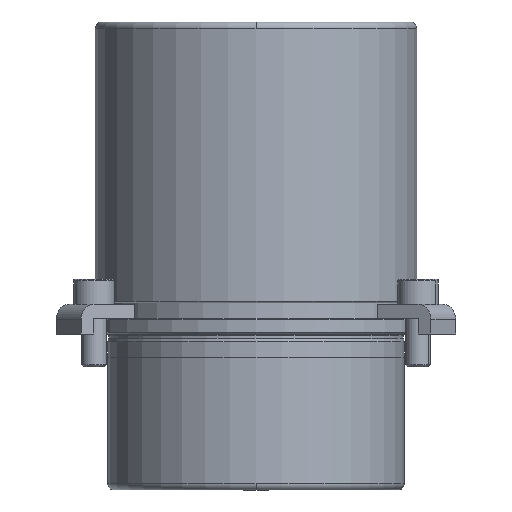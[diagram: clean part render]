
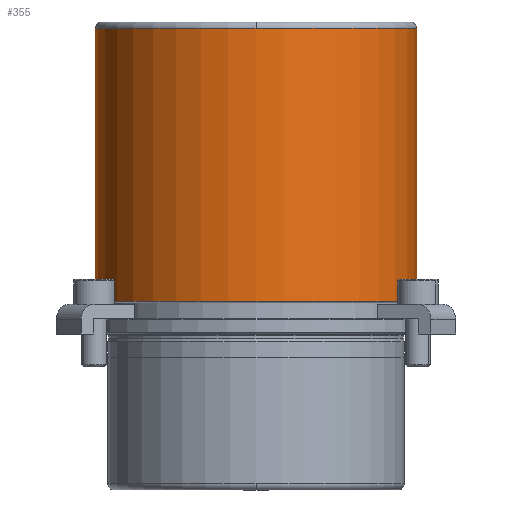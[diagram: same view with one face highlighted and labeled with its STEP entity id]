
A CAD part, front view. The second image highlights one B-rep face of the part: STEP entity #355.
In plain terms, the highlighted cylindrical face has radius 51.5 mm (diameter 103 mm), a partial arc.
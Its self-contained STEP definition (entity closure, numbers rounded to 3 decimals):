
#269=CARTESIAN_POINT('',(0.0,-51.5,98.));
#270=VERTEX_POINT('',#269);
#296=CARTESIAN_POINT('',(-51.5,0.,98.));
#297=VERTEX_POINT('',#296);
#305=CARTESIAN_POINT('',(0.0,0.,98.));
#306=DIRECTION('',(0.0,0.0,1.0));
#307=DIRECTION('',(1.0,0.0,0.0));
#308=AXIS2_PLACEMENT_3D('',#305,#306,#307);
#309=CIRCLE('',#308,51.5);
#310=EDGE_CURVE('',#297,#270,#309,.T.);
#315=CARTESIAN_POINT('',(0.0,0.,54.25));
#316=DIRECTION('',(0.0,0.,1.0));
#317=DIRECTION('',(1.0,0.0,0.0));
#318=AXIS2_PLACEMENT_3D('',#315,#316,#317);
#319=CYLINDRICAL_SURFACE('',#318,51.5);
#320=CARTESIAN_POINT('',(51.5,0.,98.));
#321=VERTEX_POINT('',#320);
#322=CARTESIAN_POINT('',(51.5,0.,10.5));
#323=VERTEX_POINT('',#322);
#324=CARTESIAN_POINT('',(51.5,0.,98.));
#325=DIRECTION('',(0.0,0.0,-1.0));
#326=VECTOR('',#325,87.5);
#327=LINE('',#324,#326);
#328=EDGE_CURVE('',#321,#323,#327,.T.);
#329=ORIENTED_EDGE('',*,*,#328,.F.);
#330=CARTESIAN_POINT('',(0.0,0.,98.));
#331=DIRECTION('',(0.0,0.0,1.0));
#332=DIRECTION('',(1.0,0.0,0.0));
#333=AXIS2_PLACEMENT_3D('',#330,#331,#332);
#334=CIRCLE('',#333,51.5);
#335=EDGE_CURVE('',#270,#321,#334,.T.);
#336=ORIENTED_EDGE('',*,*,#335,.F.);
#337=ORIENTED_EDGE('',*,*,#310,.F.);
#338=CARTESIAN_POINT('',(-51.5,0.,10.5));
#339=VERTEX_POINT('',#338);
#340=CARTESIAN_POINT('',(-51.5,0.,98.));
#341=DIRECTION('',(0.0,0.0,-1.0));
#342=VECTOR('',#341,87.5);
#343=LINE('',#340,#342);
#344=EDGE_CURVE('',#297,#339,#343,.T.);
#345=ORIENTED_EDGE('',*,*,#344,.T.);
#346=CARTESIAN_POINT('',(0.0,0.,10.5));
#347=DIRECTION('',(0.0,0.0,1.0));
#348=DIRECTION('',(1.0,0.0,0.0));
#349=AXIS2_PLACEMENT_3D('',#346,#347,#348);
#350=CIRCLE('',#349,51.5);
#351=EDGE_CURVE('',#339,#323,#350,.T.);
#352=ORIENTED_EDGE('',*,*,#351,.T.);
#353=EDGE_LOOP('',(#329,#336,#337,#345,#352));
#354=FACE_OUTER_BOUND('',#353,.T.);
#355=ADVANCED_FACE('',(#354),#319,.T.);
